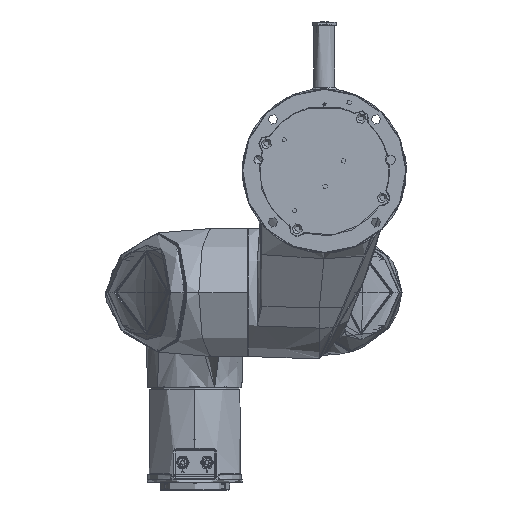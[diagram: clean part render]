
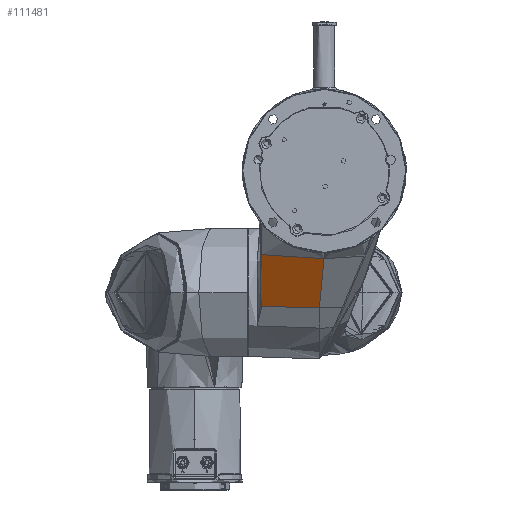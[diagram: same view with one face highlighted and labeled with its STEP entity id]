
A CAD part, front view. The second image highlights one B-rep face of the part: STEP entity #111481.
In plain terms, the highlighted planar face has unit normal (-0.035, -0.845, -0.533).
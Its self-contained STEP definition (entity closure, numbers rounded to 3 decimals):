
#297 = VERTEX_POINT ( 'NONE', #409114 ) ;
#4017 = CARTESIAN_POINT ( 'NONE',  ( 3.225, 76.394, -42.845 ) ) ;
#5987 = CARTESIAN_POINT ( 'NONE',  ( -5.355, 127.867, -123.928 ) ) ;
#8288 = CARTESIAN_POINT ( 'NONE',  ( -21.796, 128.352, -123.621 ) ) ;
#10655 = EDGE_CURVE ( 'NONE', #338874, #297, #431919, .T. ) ;
#25293 = DIRECTION ( 'NONE',  ( 0., 0.533, -0.846 ) ) ;
#26359 = CARTESIAN_POINT ( 'NONE',  ( -0.286, 99.716, -79.608 ) ) ;
#32632 = ORIENTED_EDGE ( 'NONE', *, *, #104194, .F. ) ;
#43095 = CARTESIAN_POINT ( 'NONE',  ( -29.182, 128.57, -123.483 ) ) ;
#44339 = DIRECTION ( 'NONE',  ( 0.998, 0., -0.065 ) ) ;
#49964 = CARTESIAN_POINT ( 'NONE',  ( -4.52, 127.843, -123.945 ) ) ;
#53370 = VERTEX_POINT ( 'NONE', #85608 ) ;
#56706 = CARTESIAN_POINT ( 'NONE',  ( -56.546, 99.716, -75.924 ) ) ;
#62307 = CARTESIAN_POINT ( 'NONE',  ( -56.546, 99.716, -75.924 ) ) ;
#74548 = CARTESIAN_POINT ( 'NONE',  ( 4.827, 99.716, -79.942 ) ) ;
#77950 = CARTESIAN_POINT ( 'NONE',  ( -56.546, 99.716, -75.924 ) ) ;
#85608 = CARTESIAN_POINT ( 'NONE',  ( -56.548, 129.378, -122.972 ) ) ;
#86785 = B_SPLINE_CURVE_WITH_KNOTS ( 'NONE', 3,
 ( #310045, #452110, #275120, #228672 ),
 .UNSPECIFIED., .F., .F.,
 ( 4, 4 ),
 ( 0., 0.001 ),
 .UNSPECIFIED. ) ;
#88762 = VERTEX_POINT ( 'NONE', #26359 ) ;
#101820 = DIRECTION ( 'NONE',  ( -0.035, -0.845, -0.533 ) ) ;
#104194 = EDGE_CURVE ( 'NONE', #338874, #106479, #224070, .T. ) ;
#106479 = VERTEX_POINT ( 'NONE', #56706 ) ;
#110525 = CARTESIAN_POINT ( 'NONE',  ( -56.548, 129.378, -122.972 ) ) ;
#111481 = ADVANCED_FACE ( 'NONE', ( #262842 ), #404873, .T. ) ;
#112814 = CARTESIAN_POINT ( 'NONE',  ( -14.411, 128.134, -123.759 ) ) ;
#116908 = DIRECTION ( 'NONE',  ( 0.998, 0., -0.065 ) ) ;
#138060 = ORIENTED_EDGE ( 'NONE', *, *, #246132, .F. ) ;
#147804 = CARTESIAN_POINT ( 'NONE',  ( -7.026, 127.916, -123.896 ) ) ;
#159042 = CARTESIAN_POINT ( 'NONE',  ( -56.542, 119.208, -106.841 ) ) ;
#160488 = AXIS2_PLACEMENT_3D ( 'NONE', #274342, #101820, #25293 ) ;
#167212 = VECTOR ( 'NONE', #353083, 1000. ) ;
#187343 = CARTESIAN_POINT ( 'NONE',  ( -38.304, 128.839, -123.313 ) ) ;
#196268 = ORIENTED_EDGE ( 'NONE', *, *, #10655, .T. ) ;
#204304 = CARTESIAN_POINT ( 'NONE',  ( -56.544, 109.462, -91.382 ) ) ;
#211147 = LINE ( 'NONE', #4017, #167212 ) ;
#224070 = LINE ( 'NONE', #440572, #277601 ) ;
#228672 = CARTESIAN_POINT ( 'NONE',  ( -56.548, 129.378, -122.972 ) ) ;
#241343 = EDGE_CURVE ( 'NONE', #106479, #88762, #393647, .T. ) ;
#246132 = EDGE_CURVE ( 'NONE', #405337, #53370, #280883, .T. ) ;
#261843 = CARTESIAN_POINT ( 'NONE',  ( -47.426, 129.109, -123.142 ) ) ;
#262842 = FACE_OUTER_BOUND ( 'NONE', #313907, .T. ) ;
#274342 = CARTESIAN_POINT ( 'NONE',  ( 16.223, -10.482, 94.102 ) ) ;
#275120 = CARTESIAN_POINT ( 'NONE',  ( -56.542, 129.236, -122.748 ) ) ;
#277601 = VECTOR ( 'NONE', #116908, 1000. ) ;
#280883 = B_SPLINE_CURVE_WITH_KNOTS ( 'NONE', 3,
 ( #49964, #5987, #327069, #147804, #112814, #8288, #43095, #187343, #261843, #110525 ),
 .UNSPECIFIED., .F., .F.,
 ( 4, 3, 3, 4 ),
 ( -0.025, -0.022, 0., 0.027 ),
 .UNSPECIFIED. ) ;
#290428 = VECTOR ( 'NONE', #44339, 1000. ) ;
#298581 = CARTESIAN_POINT ( 'NONE',  ( -4.52, 127.843, -123.945 ) ) ;
#310045 = CARTESIAN_POINT ( 'NONE',  ( -56.539, 128.953, -122.299 ) ) ;
#313907 = EDGE_LOOP ( 'NONE', ( #196268, #403055, #138060, #358612, #423100, #32632 ) ) ;
#327069 = CARTESIAN_POINT ( 'NONE',  ( -6.19, 127.892, -123.912 ) ) ;
#338874 = VERTEX_POINT ( 'NONE', #77950 ) ;
#353083 = DIRECTION ( 'NONE',  ( -0.08, 0.534, -0.842 ) ) ;
#358612 = ORIENTED_EDGE ( 'NONE', *, *, #460274, .F. ) ;
#393647 = LINE ( 'NONE', #74548, #290428 ) ;
#403055 = ORIENTED_EDGE ( 'NONE', *, *, #422653, .T. ) ;
#404873 = PLANE ( 'NONE',  #160488 ) ;
#405337 = VERTEX_POINT ( 'NONE', #298581 ) ;
#409114 = CARTESIAN_POINT ( 'NONE',  ( -56.539, 128.953, -122.299 ) ) ;
#422653 = EDGE_CURVE ( 'NONE', #297, #53370, #86785, .T. ) ;
#423100 = ORIENTED_EDGE ( 'NONE', *, *, #241343, .F. ) ;
#431919 = B_SPLINE_CURVE_WITH_KNOTS ( 'NONE', 3,
 ( #62307, #204304, #159042, #438569 ),
 .UNSPECIFIED., .F., .F.,
 ( 4, 4 ),
 ( 0., 0.055 ),
 .UNSPECIFIED. ) ;
#438569 = CARTESIAN_POINT ( 'NONE',  ( -56.539, 128.953, -122.299 ) ) ;
#440572 = CARTESIAN_POINT ( 'NONE',  ( 4.827, 99.716, -79.942 ) ) ;
#452110 = CARTESIAN_POINT ( 'NONE',  ( -56.539, 129.095, -122.524 ) ) ;
#460274 = EDGE_CURVE ( 'NONE', #88762, #405337, #211147, .T. ) ;
